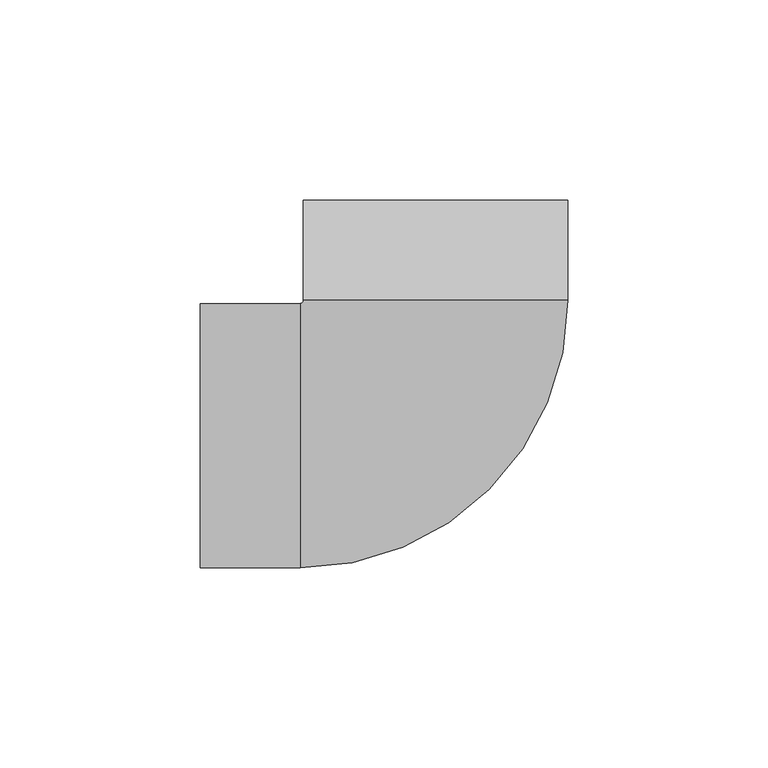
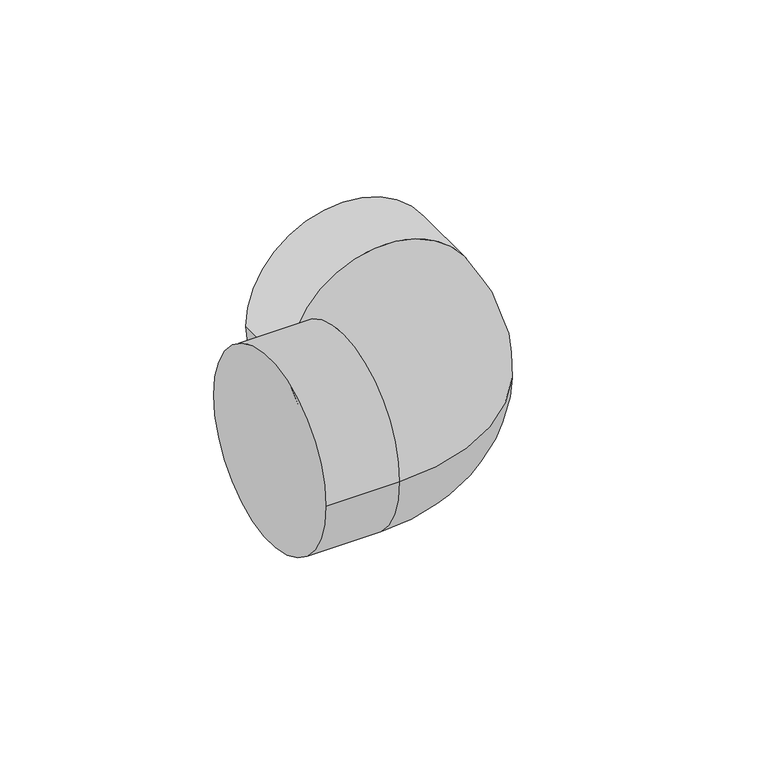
"""IFC4 building model written with IfcOpenShell, lengths in millimetres: pipe fitting geometry, NIRON RED termofusion codo : Estándar."""

from ifc_helpers import new_model, si_unit, point, frame, origin, place, context, project, spatial, circle_curve, ellipse_curve, trimmed, source, transform, mapped, element, save
from ifc_brep_helpers import plane_surface, cylinder_surface, revolved_surface, advanced_brep


def pipe_fitting_f2964691(model_context):
    return source(origin(), model_context, "Body", "AdvancedBrep", [
        advanced_brep(
        [(-58.79375, -33.0, 0.0), (-58.79375, 33.0, 0.0), (-33.79375, -33.0, 0.0), (-33.79375, 33.0, 0.0), (-33.0, 33.79375, 0.0), (33.0, 33.79375, 0.0), (0.0, 33.79375, 33.0), (0.0, 33.79375, -33.0), (33.0, 58.79375, 0.0), (-33.0, 58.79375, 0.0)],
        [
            (0, 1, circle_curve(frame((-58.79375, 0.0, 0.0), z_axis=(-1.0, 0.0, 0.0), x_axis=(0.0, 1.0, 0.0)), 33.0)),
            (1, 0, circle_curve(frame((-58.79375, 0.0, 0.0), z_axis=(-1.0, 0.0, 0.0), x_axis=(0.0, 1.0, 0.0)), 33.0)),
            (0, 2),
            (2, 3, circle_curve(frame((-33.79375, 0.0, 0.0), z_axis=(-1.0, 0.0, 0.0), x_axis=(0.0, 1.0, 0.0)), 33.0)),
            (3, 1),
            (3, 2, circle_curve(frame((-33.79375, 0.0, 0.0), z_axis=(-1.0, 0.0, 0.0), x_axis=(0.0, 1.0, 0.0)), 33.0)),
            (4, 3, circle_curve(frame((-33.79375, 33.79375, 0.0), z_axis=(0.0, 0.0, -1.0), x_axis=(0.0, -1.0, 0.0)), 0.79375)),
            (2, 5, circle_curve(frame((-33.79375, 33.79375, 0.0), z_axis=(0.0, 0.0, 1.0), x_axis=(0.0, -1.0, 0.0)), 66.79375)),
            (5, 6, circle_curve(frame((0.0, 33.79375, 0.0), z_axis=(0.0, -1.0, 0.0), x_axis=(-1.0, 0.0, 0.0)), 33.0)),
            (6, 4, circle_curve(frame((0.0, 33.79375, 0.0), z_axis=(0.0, -1.0, 0.0), x_axis=(-1.0, 0.0, 0.0)), 33.0)),
            (4, 7, circle_curve(frame((0.0, 33.79375, 0.0), z_axis=(0.0, -1.0, 0.0), x_axis=(-1.0, 0.0, 0.0)), 33.0)),
            (7, 5, circle_curve(frame((0.0, 33.79375, 0.0), z_axis=(0.0, -1.0, 0.0), x_axis=(-1.0, 0.0, 0.0)), 33.0)),
            (8, 9, circle_curve(frame((0.0, 58.79375, 0.0), z_axis=(0.0, 1.0, 0.0), x_axis=(-1.0, 0.0, 0.0)), 33.0)),
            (9, 8, circle_curve(frame((0.0, 58.79375, 0.0), z_axis=(0.0, 1.0, 0.0), x_axis=(-1.0, 0.0, 0.0)), 33.0)),
            (9, 4),
            (5, 8),
        ],
        [
            plane_surface(frame((-58.79375, 0.0, 0.0), z_axis=(-1.0, 0.0, 0.0), x_axis=(0.0, 0.0, 1.0))),
            cylinder_surface(frame((-58.79375, 0.0, 0.0), z_axis=(-1.0, 0.0, 0.0), x_axis=(0.0, 1.0, 0.0)), 33.0),
            revolved_surface(trimmed(ellipse_curve(frame((-33.79375, 0.0, 0.0), z_axis=(-1.0, 0.0, 0.0), x_axis=(0.0, 1.0, 0.0)), 33.0, 33.0), [point((-33.79375, -33.0, 0.0))], [point((-33.79375, 33.0, 0.0))], True, "CARTESIAN"), (-33.79375, 33.79375, 0.0), (0.0, 0.0, 1.0)),
            revolved_surface(trimmed(ellipse_curve(frame((-33.79375, 0.0, 0.0), z_axis=(-1.0, 0.0, 0.0), x_axis=(0.0, 1.0, 0.0)), 33.0, 33.0), [point((-33.79375, 33.0, 0.0))], [point((-33.79375, -33.0, 0.0))], True, "CARTESIAN"), (-33.79375, 33.79375, 0.0), (0.0, 0.0, 1.0)),
            plane_surface(frame((0.0, 58.79375, 0.0), z_axis=(0.0, 1.0, 0.0), x_axis=(0.0, 0.0, 1.0))),
            cylinder_surface(frame((0.0, 33.79375, 0.0), z_axis=(0.0, -1.0, 0.0), x_axis=(-1.0, 0.0, 0.0)), 33.0),
        ],
        [
            (0, [[1, 2]]),
            (1, [[-1, 3, 4, 5]]),
            (1, [[-2, -5, 6, -3]]),
            (2, [[7, -4, 8, 9, 10]]),
            (3, [[-7, 11, 12, -8, -6]]),
            (4, [[13, 14]]),
            (5, [[-14, 15, -10, -9, 16]]),
            (5, [[-13, -16, -12, -11, -15]]),
        ],
    ),
    ])


if __name__ == "__main__":
    model = new_model("IFC4")
    model_context = context("Model", 3, world=origin())
    ifc_project = project(units=[si_unit("LENGTHUNIT", "METRE", prefix="MILLI")], contexts=[model_context])
    site = spatial("IfcSite", under=ifc_project)
    building = spatial("IfcBuilding", under=site)
    placement = place(None, origin())
    pipe_fitting_shape = pipe_fitting_f2964691(model_context)
    element("IfcPipeFitting", 1, ObjectType="NIRON RED termofusion codo : Estándar", at=placement, inside=building, context=model_context, shape_type="MappedRepresentation", body=[
        mapped(pipe_fitting_shape, transform((0.0, 0.0, 0.0), x_axis=(1.0, 0.0, 0.0), y_axis=(0.0, 1.0, 0.0), z_axis=(0.0, 0.0, 1.0))),
    ])
    save(model, "model.ifc")
